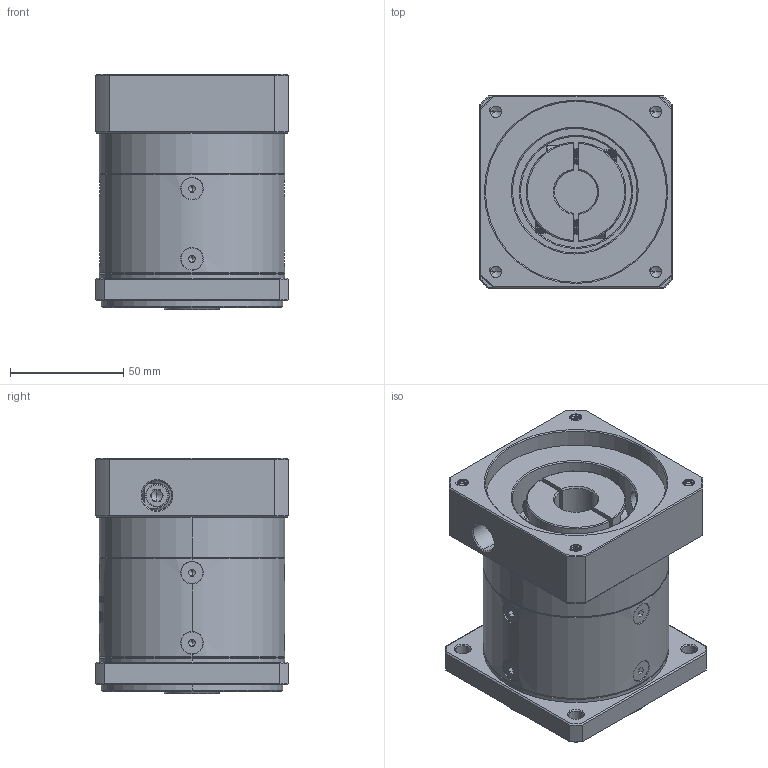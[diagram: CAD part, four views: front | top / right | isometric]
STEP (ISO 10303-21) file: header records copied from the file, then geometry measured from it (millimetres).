
FILE_DESCRIPTION (( 'STEP AP214' ), '1' );
FILE_NAME ('ZF80-K15-L1-19-80-100-M6.step', '2022-09-16T05:26:26', ( '' ), ( 'Microsoft' ), 'SwSTEP 2.0', 'SolidWorks 2016', '' );
FILE_SCHEMA (( 'AUTOMOTIVE_DESIGN' ));
Length unit declared in the file: millimetre
Products named in the file (1): ZF80-K15-L1-19-80-100-M6
Bounding box: 85 x 85 x 104 mm (x, y, z)
Volume: 518299.9 mm3; surface area: 87323.2 mm2
Topology: 13 solids, 13 shells, 1930 faces, 4996 edges, 3159 vertices
Faces by surface type: plane 889, cylinder 381, cone 333, bspline 310, torus 17
Entity records: 101543 total; most frequent: CARTESIAN_POINT 36631, ORIENTED_EDGE 9936, DIRECTION 7875, EDGE_CURVE 4968, VERTEX_POINT 3159, VECTOR 2719, LINE 2719, AXIS2_PLACEMENT_3D 2578
